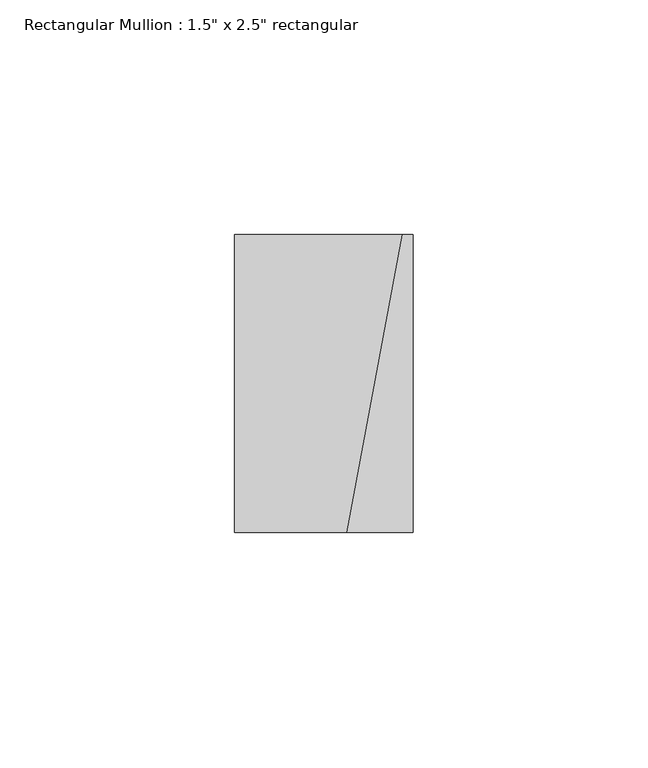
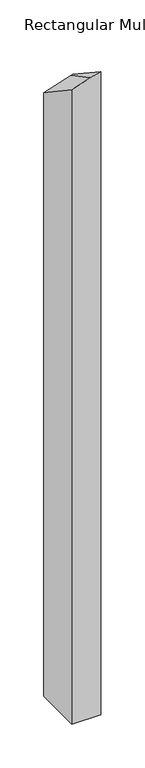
"""IFC4 building model written with IfcOpenShell, lengths in millimetres: member geometry."""

from ifc_helpers import new_model, si_unit, origin, place, context, project, spatial, faceted_brep, source, transform, mapped, element, save


def member_13104b59(model_context):
    return source(origin(), model_context, "Body", "Brep", [
        faceted_brep([(19.05, 31.75, -906.7722247), (19.05, -31.75, -906.7722247), (-19.05, -31.75, -906.7722247), (-19.05, 31.75, -906.7722247), (-19.05, 31.75, -67.3216667), (16.720741, 31.75, -55.6767497), (19.05, 31.75, -55.0351808), (-19.05, -31.75, -24.4426614), (19.05, -31.75, -12.7439202), (4.9902451, -31.75, -16.6165261)], [[[0, 1, 2, 3]], [[4, 5, 6, 0, 3]], [[7, 4, 3, 2]], [[8, 9, 7, 2, 1]], [[6, 8, 1, 0]], [[6, 5, 9, 8]], [[5, 4, 7, 9]]]),
    ])


if __name__ == "__main__":
    model = new_model("IFC4")
    model_context = context("Model", 3, world=origin())
    ifc_project = project(units=[si_unit("LENGTHUNIT", "METRE", prefix="MILLI")], contexts=[model_context])
    site = spatial("IfcSite", under=ifc_project)
    building = spatial("IfcBuilding", under=site)
    placement = place(None, origin())
    member_shape = member_13104b59(model_context)
    element("IfcMember", 1, ObjectType="Rectangular Mullion : 1.5\" x 2.5\" rectangular", at=placement, inside=building, context=model_context, shape_type="MappedRepresentation", body=[
        mapped(member_shape, transform((0.0, 0.0, 0.0), x_axis=(1.0, 0.0, 0.0), y_axis=(0.0, 1.0, 0.0), z_axis=(0.0, 0.0, 1.0))),
    ])
    save(model, "model.ifc")
